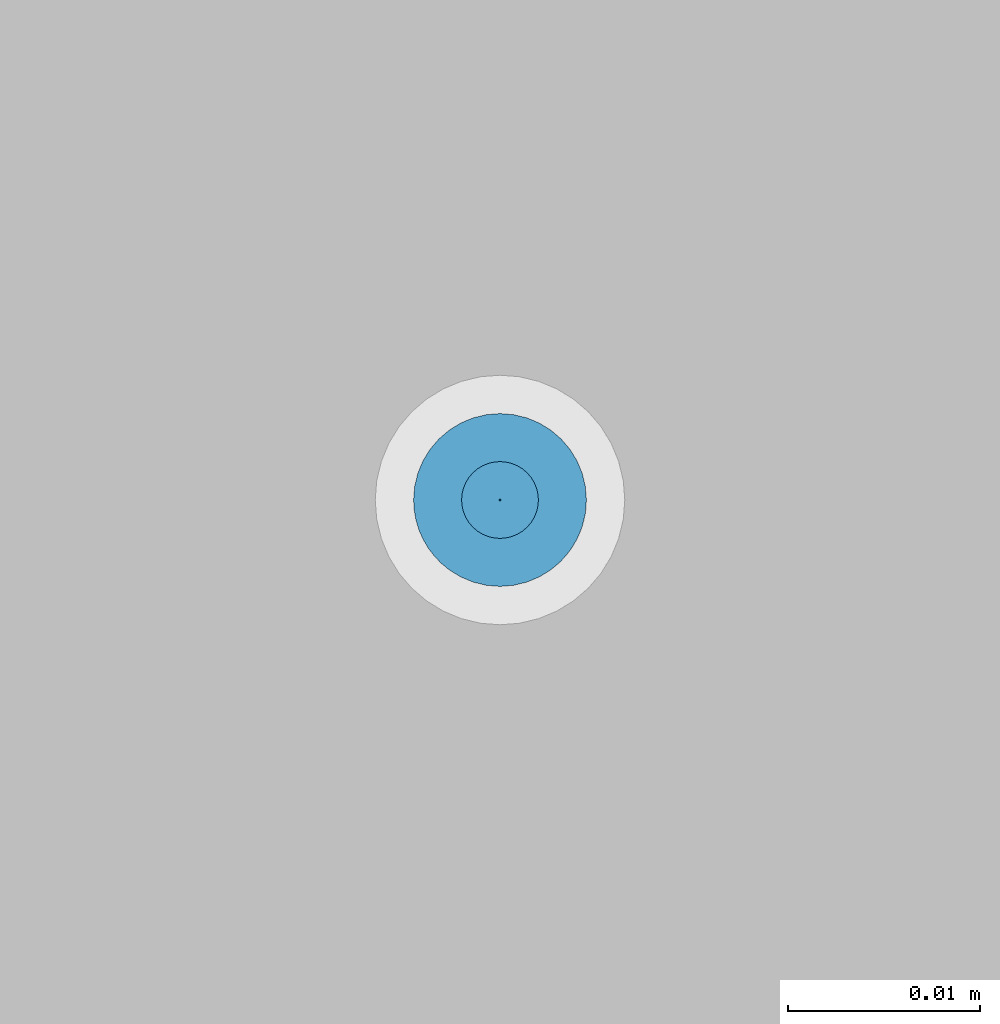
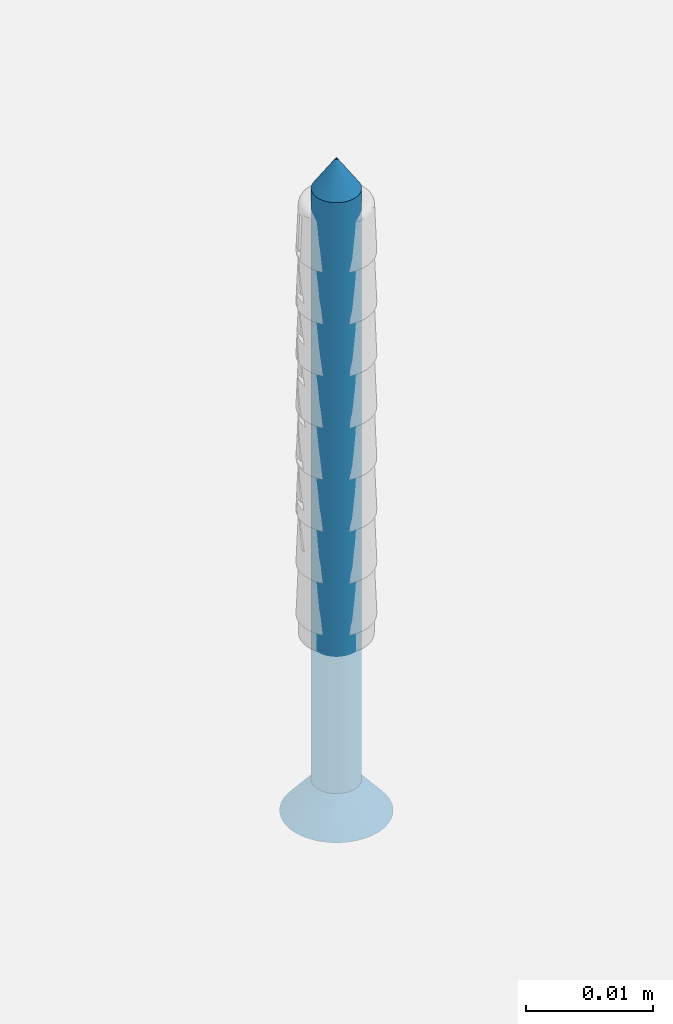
# One storey, part 15 of 92: 1 wall.
"""IFC2X3 building model written with IfcOpenShell, lengths in millimetres."""

from ifc_helpers import new_model, si_unit, frame, origin_with_axes, place, context, subcontext, project, spatial, faceted_brep, material, type_object, element, save


model = new_model("IFC2X3")

# Units and contexts
model_context = context("Model", 3, world=origin_with_axes())
body_context = subcontext(model_context, "Body", "Model", "MODEL_VIEW")
ifc_project = project(units=[si_unit("LENGTHUNIT", "METRE", prefix="MILLI"), si_unit("AREAUNIT", "SQUARE_METRE"), si_unit("VOLUMEUNIT", "CUBIC_METRE")], contexts=[model_context])

# Site, building, storey
site_placement = place(None, origin_with_axes())
site = spatial("IfcSite", under=ifc_project, at=site_placement, Name="Default Site", CompositionType="ELEMENT")
building_placement = place(site_placement, origin_with_axes())
building = spatial("IfcBuilding", under=site, at=building_placement, Name="Default Building", CompositionType="ELEMENT")
storey_placement = place(building_placement, origin_with_axes())
storey = spatial("IfcBuildingStorey", under=building, at=storey_placement, Name="Default Building Storey", CompositionType="ELEMENT", Elevation=0.0)

# Wall
ifc_material = material(Name="Default")
wall_type = type_object("IfcWallType", Name="Kołek rozporowy min. fi 6", PredefinedType="NOTDEFINED")
wall_placement = place(storey_placement, frame((3530.2813105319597, 1655.5457902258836, 2570.0054142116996), z_axis=(5.273559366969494e-16, -2.122374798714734e-31, -1.0), x_axis=(4.0245584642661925e-16, 1.0, 0.0)))
element("IfcWall", 1, at=wall_placement, inside=storey, type_object=wall_type, material=ifc_material, Name="Kołek rozporowy min. fi 6", context=body_context, shape_type="Brep", body=[
    faceted_brep([(-1438.2587671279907, -3452.579259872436, -0.46425670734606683), (-1435.7895851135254, -3452.970266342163, -3.464256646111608), (-1435.8141422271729, -3453.2833099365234, -3.464256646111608), (-1438.3141994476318, -3453.2833099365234, -0.46425670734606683), (-1438.093900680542, -3451.892614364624, -0.46425670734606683), (-1435.7162714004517, -3452.6650905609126, -3.464256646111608), (-1437.8236532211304, -3451.240301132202, -0.46425670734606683), (-1435.5961084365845, -3452.3751735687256, -3.464256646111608), (-1437.4547004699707, -3450.6382942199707, -0.46425670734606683), (-1435.4321956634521, -3452.107667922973, -3.464256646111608), (-1436.9961023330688, -3450.101137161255, -0.46425670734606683), (-1435.22834777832, -3451.8690109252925, -3.464256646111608), (-1436.4591836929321, -3449.642658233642, -0.46425670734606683), (-1434.9896907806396, -3451.665163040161, -3.464256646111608), (-1435.8570575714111, -3449.2735862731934, -0.46425670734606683), (-1434.7221851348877, -3451.501131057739, -3.464256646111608), (-1435.2047443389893, -3449.0034580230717, -0.46425670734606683), (-1434.4321489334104, -3451.381206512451, -3.464256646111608), (-1434.5180988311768, -3448.838710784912, -0.46425670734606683), (-1434.1269731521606, -3451.307773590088, -3.464256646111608), (-1433.8141679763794, -3448.7831592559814, -0.46425670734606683), (-1433.8141679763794, -3451.28321647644, -3.464256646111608), (-1433.110237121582, -3448.838710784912, -0.46425670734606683), (-1433.5012435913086, -3451.307773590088, -3.464256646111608), (-1432.4235916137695, -3449.0034580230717, -0.46425670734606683), (-1433.1960678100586, -3451.381206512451, -3.464256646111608), (-1431.771159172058, -3449.2735862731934, -0.46425670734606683), (-1432.9061508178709, -3451.501131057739, -3.464256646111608), (-1431.1691522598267, -3449.642658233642, -0.46425670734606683), (-1432.6385259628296, -3451.665163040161, -3.464256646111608), (-1430.6321144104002, -3450.101137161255, -0.46425670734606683), (-1432.3999881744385, -3451.8690109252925, -3.464256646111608), (-1430.1735162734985, -3450.6382942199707, -0.46425670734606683), (-1432.1961402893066, -3452.107667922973, -3.464256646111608), (-1429.8045635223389, -3451.240301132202, -0.46425670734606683), (-1432.0321083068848, -3452.3751735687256, -3.464256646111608), (-1429.5344352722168, -3451.892614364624, -0.46425670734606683), (-1431.9120645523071, -3452.6650905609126, -3.464256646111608), (-1431.814193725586, -3453.2833099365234, -3.464256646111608), (-1429.314136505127, -3453.2833099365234, -0.46425670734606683), (-1429.369568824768, -3453.9871215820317, -0.46425670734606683), (-1431.8387508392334, -3453.5961151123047, -3.464256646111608), (-1431.8387508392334, -3452.970266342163, -3.464256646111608), (-1429.369568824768, -3452.579259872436, -0.46425670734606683), (-1429.5344352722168, -3454.6737670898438, -0.46425670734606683), (-1431.9120645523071, -3453.9012908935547, -3.464256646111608), (-1429.8045635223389, -3455.3260803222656, -0.46425670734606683), (-1432.0321083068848, -3454.191207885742, -3.464256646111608), (-1430.1735162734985, -3455.9283256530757, -0.46425670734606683), (-1432.1961402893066, -3454.458713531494, -3.464256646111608), (-1430.6321144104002, -3456.465244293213, -0.46425670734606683), (-1432.3999881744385, -3454.6973705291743, -3.464256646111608), (-1431.1691522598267, -3456.923723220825, -0.46425670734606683), (-1432.6385259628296, -3454.9012184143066, -3.464256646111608), (-1431.771159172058, -3457.2927951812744, -0.46425670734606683), (-1432.9061508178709, -3455.065250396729, -3.464256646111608), (-1432.4235916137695, -3457.562923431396, -0.46425670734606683), (-1433.1960678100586, -3455.1854133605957, -3.464256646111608), (-1433.110237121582, -3457.7279090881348, -0.46425670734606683), (-1433.5012435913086, -3455.25860786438, -3.464256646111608), (-1433.8141679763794, -3457.7832221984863, -0.46425670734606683), (-1433.8141679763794, -3455.283164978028, -3.464256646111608), (-1434.1269731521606, -3455.25860786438, -3.464256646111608), (-1434.3430995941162, -3457.7519893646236, -0.46425670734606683), (-1434.4321489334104, -3455.1854133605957, -3.464256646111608), (-1434.8646402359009, -3457.6590061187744, -0.46425670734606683), (-1435.3716373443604, -3457.504987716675, -0.46425670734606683), (-1434.7221851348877, -3455.065250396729, -3.464256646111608), (-1435.8570575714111, -3457.2927951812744, -0.46425670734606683), (-1436.3142251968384, -3457.024812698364, -0.46425670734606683), (-1435.22834777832, -3454.6973705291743, -3.464256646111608), (-1434.9896907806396, -3454.9012184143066, -3.464256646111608), (-1436.7367029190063, -3456.705093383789, -0.46425670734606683), (-1437.118649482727, -3456.337928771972, -0.46425670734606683), (-1435.4321956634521, -3454.458713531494, -3.464256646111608), (-1437.4547004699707, -3455.9283256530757, -0.46425670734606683), (-1437.8236532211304, -3455.3260803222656, -0.46425670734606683), (-1435.5961084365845, -3454.191207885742, -3.464256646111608), (-1438.093900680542, -3454.6737670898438, -0.46425670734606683), (-1435.7162714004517, -3453.9012908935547, -3.464256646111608), (-1438.2587671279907, -3453.9871215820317, -0.46425670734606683), (-1435.7895851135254, -3453.5961151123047, -3.464256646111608), (-1433.8141679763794, -3455.7831287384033, 0.20073754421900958), (-1434.2052936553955, -3455.752372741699, 0.20073754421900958), (-1434.5866441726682, -3455.6608200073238, 0.20073754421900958), (-1434.9491596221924, -3455.510854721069, 0.20073754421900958), (-1435.2836608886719, -3455.305814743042, 0.20073754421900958), (-1435.581922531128, -3455.0509452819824, 0.20073754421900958), (-1435.836672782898, -3454.7526836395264, 0.20073754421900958), (-1436.0417127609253, -3454.418182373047, 0.20073754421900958), (-1436.1917972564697, -3454.0557861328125, 0.20073754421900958), (-1436.2833499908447, -3453.6743164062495, 0.20073754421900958), (-1436.3141059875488, -3453.2833099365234, 0.20073754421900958), (-1436.2833499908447, -3452.8920650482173, 0.20073754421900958), (-1436.1917972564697, -3452.5105953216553, 0.20073754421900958), (-1436.0417127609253, -3452.148199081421, 0.20073754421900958), (-1435.836672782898, -3451.8136978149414, 0.20073754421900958), (-1435.581922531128, -3451.5154361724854, 0.20073754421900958), (-1435.2836608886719, -3451.260566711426, 0.20073754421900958), (-1434.9491596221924, -3451.0557651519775, 0.20073754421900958), (-1434.5866441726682, -3450.905561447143, 0.20073754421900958), (-1433.8141679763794, -3450.7832527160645, 0.20073754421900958), (-1433.4230422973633, -3450.8140087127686, 0.20073754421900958), (-1434.2052936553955, -3450.8140087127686, 0.20073754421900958), (-1433.0415725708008, -3450.905561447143, 0.20073754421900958), (-1432.6791763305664, -3451.0557651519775, 0.20073754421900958), (-1432.344675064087, -3451.260566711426, 0.20073754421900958), (-1432.0464134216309, -3451.5154361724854, 0.20073754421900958), (-1431.7916631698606, -3451.8136978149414, 0.20073754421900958), (-1431.5866231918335, -3452.148199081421, 0.20073754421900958), (-1431.436538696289, -3452.5105953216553, 0.20073754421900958), (-1431.344985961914, -3452.8920650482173, 0.20073754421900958), (-1431.3141107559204, -3453.2833099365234, 0.20073754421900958), (-1431.344985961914, -3453.6743164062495, 0.20073754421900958), (-1431.436538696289, -3454.0557861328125, 0.20073754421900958), (-1431.5866231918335, -3454.418182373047, 0.20073754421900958), (-1431.7916631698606, -3454.7526836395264, 0.20073754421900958), (-1432.0464134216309, -3455.0509452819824, 0.20073754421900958), (-1432.344675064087, -3455.305814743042, 0.20073754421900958), (-1432.6791763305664, -3455.510854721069, 0.20073754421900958), (-1433.0415725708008, -3455.6608200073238, 0.20073754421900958), (-1433.4230422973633, -3455.752372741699, 0.20073754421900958), (-1435.8141422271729, -3453.2833099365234, -60.464255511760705), (-1435.7895851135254, -3452.970266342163, -60.464255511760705), (-1433.8141679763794, -3453.2833099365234, -63.46425414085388), (-1435.7162714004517, -3452.6650905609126, -60.464255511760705), (-1435.5961084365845, -3452.3751735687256, -60.464255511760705), (-1435.4321956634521, -3452.107667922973, -60.464255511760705), (-1435.22834777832, -3451.8690109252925, -60.464255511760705), (-1434.9896907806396, -3451.665163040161, -60.464255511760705), (-1434.7221851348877, -3451.501131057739, -60.464255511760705), (-1434.4321489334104, -3451.381206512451, -60.464255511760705), (-1434.1269731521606, -3451.307773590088, -60.464255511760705), (-1433.8141679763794, -3451.28321647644, -60.464255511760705), (-1433.5012435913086, -3451.307773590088, -60.464255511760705), (-1433.1960678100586, -3451.381206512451, -60.464255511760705), (-1432.9061508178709, -3451.501131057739, -60.464255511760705), (-1432.6385259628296, -3451.665163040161, -60.464255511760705), (-1432.3999881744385, -3451.8690109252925, -60.464255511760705), (-1432.1961402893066, -3452.107667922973, -60.464255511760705), (-1432.0321083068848, -3452.3751735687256, -60.464255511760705), (-1431.9120645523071, -3452.6650905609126, -60.464255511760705), (-1431.8387508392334, -3452.970266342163, -60.464255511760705), (-1431.814193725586, -3453.2833099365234, -60.464255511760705), (-1431.8387508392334, -3453.5961151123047, -60.464255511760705), (-1431.9120645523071, -3453.9012908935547, -60.464255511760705), (-1432.0321083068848, -3454.191207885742, -60.464255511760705), (-1432.1961402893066, -3454.458713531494, -60.464255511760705), (-1432.3999881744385, -3454.6973705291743, -60.464255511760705), (-1432.6385259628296, -3454.9012184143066, -60.464255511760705), (-1432.9061508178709, -3455.065250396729, -60.464255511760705), (-1433.1960678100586, -3455.1854133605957, -60.464255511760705), (-1433.5012435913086, -3455.25860786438, -60.464255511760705), (-1433.8141679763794, -3455.283164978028, -60.464255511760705), (-1434.1269731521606, -3455.25860786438, -60.464255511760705), (-1434.4321489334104, -3455.1854133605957, -60.464255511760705), (-1434.7221851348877, -3455.065250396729, -60.464255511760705), (-1434.9896907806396, -3454.9012184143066, -60.464255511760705), (-1435.22834777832, -3454.6973705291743, -60.464255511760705), (-1435.4321956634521, -3454.458713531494, -60.464255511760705), (-1435.5961084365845, -3454.191207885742, -60.464255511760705), (-1435.7162714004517, -3453.9012908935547, -60.464255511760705), (-1435.7895851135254, -3453.5961151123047, -60.464255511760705), (-1436.1917972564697, -3454.0557861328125, 0.049999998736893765), (-1436.0417127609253, -3454.418182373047, 0.049999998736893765), (-1435.836672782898, -3454.7526836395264, 0.049999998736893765), (-1435.581922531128, -3455.0509452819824, 0.049999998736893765), (-1435.2836608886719, -3455.305814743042, 0.049999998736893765), (-1434.9491596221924, -3455.510854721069, 0.049999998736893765), (-1434.5866441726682, -3455.6608200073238, 0.049999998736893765), (-1434.2052936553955, -3455.752372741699, 0.049999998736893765), (-1433.8141679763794, -3455.7831287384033, 0.049999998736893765), (-1433.4230422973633, -3455.752372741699, 0.049999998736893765), (-1433.0415725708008, -3455.6608200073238, 0.049999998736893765), (-1432.6791763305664, -3455.510854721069, 0.049999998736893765), (-1432.344675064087, -3455.305814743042, 0.049999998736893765), (-1432.0464134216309, -3455.0509452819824, 0.049999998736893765), (-1431.7916631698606, -3454.7526836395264, 0.049999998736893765), (-1431.5866231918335, -3454.418182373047, 0.049999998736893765), (-1431.436538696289, -3454.0557861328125, 0.049999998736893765), (-1431.344985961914, -3453.6743164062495, 0.049999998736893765), (-1431.3141107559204, -3453.2833099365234, 0.049999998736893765), (-1431.344985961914, -3452.8920650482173, 0.049999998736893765), (-1431.436538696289, -3452.5105953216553, 0.049999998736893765), (-1431.5866231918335, -3452.148199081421, 0.049999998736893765), (-1431.7916631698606, -3451.8136978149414, 0.049999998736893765), (-1432.0464134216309, -3451.5154361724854, 0.049999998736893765), (-1432.344675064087, -3451.260566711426, 0.049999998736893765), (-1432.6791763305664, -3451.0557651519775, 0.049999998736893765), (-1433.0415725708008, -3450.905561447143, 0.049999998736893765), (-1433.4230422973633, -3450.8140087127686, 0.049999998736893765), (-1433.8141679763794, -3450.7832527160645, 0.049999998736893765), (-1434.2052936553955, -3450.8140087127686, 0.049999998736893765), (-1434.5866441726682, -3450.905561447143, 0.049999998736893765), (-1434.9491596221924, -3451.0557651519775, 0.049999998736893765), (-1435.2836608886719, -3451.260566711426, 0.049999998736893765), (-1435.581922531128, -3451.5154361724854, 0.049999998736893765), (-1435.836672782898, -3451.8136978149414, 0.049999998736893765), (-1436.0417127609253, -3452.148199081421, 0.049999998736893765), (-1436.1917972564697, -3452.5105953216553, 0.049999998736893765), (-1436.2833499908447, -3452.8920650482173, 0.049999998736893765), (-1436.3141059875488, -3453.2833099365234, 0.049999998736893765), (-1436.2833499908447, -3453.6743164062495, 0.049999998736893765), (-1434.3141317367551, -3453.7832736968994, 0.049999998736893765), (-1435.8141422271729, -3453.7832736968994, 0.049999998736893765), (-1435.8141422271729, -3452.7831077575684, 0.049999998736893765), (-1434.3141317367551, -3452.7831077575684, 0.049999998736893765), (-1434.3141317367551, -3451.28321647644, 0.049999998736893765), (-1433.3142042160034, -3451.28321647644, 0.049999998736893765), (-1433.3142042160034, -3452.7831077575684, 0.049999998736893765), (-1431.814193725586, -3452.7831077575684, 0.049999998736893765), (-1431.814193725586, -3453.7832736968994, 0.049999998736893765), (-1433.3142042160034, -3453.7832736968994, 0.049999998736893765), (-1433.3142042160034, -3455.283164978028, 0.049999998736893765), (-1434.3141317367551, -3455.283164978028, 0.049999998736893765), (-1435.8141422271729, -3452.7831077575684, -1.799262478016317), (-1435.8141422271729, -3453.7832736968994, -1.799262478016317), (-1434.3141317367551, -3453.7832736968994, -1.799262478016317), (-1434.3141317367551, -3455.283164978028, -1.799262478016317), (-1433.3142042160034, -3455.283164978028, -1.799262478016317), (-1433.3142042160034, -3453.7832736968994, -1.799262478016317), (-1431.814193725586, -3453.7832736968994, -1.799262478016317), (-1431.814193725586, -3452.7831077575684, -1.799262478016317), (-1433.3142042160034, -3452.7831077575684, -1.799262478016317), (-1433.3142042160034, -3451.28321647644, -1.799262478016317), (-1434.3141317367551, -3451.28321647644, -1.799262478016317), (-1434.3141317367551, -3452.7831077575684, -1.799262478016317)], [[[0, 1, 2, 3]], [[1, 0, 4, 5]], [[5, 4, 6, 7]], [[8, 9, 7, 6]], [[9, 8, 10, 11]], [[12, 13, 11, 10]], [[13, 12, 14, 15]], [[15, 14, 16, 17]], [[18, 19, 17, 16]], [[19, 18, 20, 21]], [[22, 23, 21, 20]], [[23, 22, 24, 25]], [[25, 24, 26, 27]], [[28, 29, 27, 26]], [[29, 28, 30, 31]], [[32, 33, 31, 30]], [[33, 32, 34, 35]], [[35, 34, 36, 37]], [[38, 39, 40, 41]], [[42, 43, 39, 38]], [[43, 42, 37, 36]], [[41, 40, 44, 45]], [[45, 44, 46, 47]], [[48, 49, 47, 46]], [[49, 48, 50, 51]], [[52, 53, 51, 50]], [[53, 52, 54, 55]], [[55, 54, 56, 57]], [[58, 59, 57, 56]], [[59, 58, 60, 61]], [[62, 60, 63]], [[62, 61, 60]], [[63, 64, 62]], [[63, 65, 64]], [[64, 65, 66]], [[66, 67, 64]], [[66, 68, 67]], [[69, 70, 71]], [[69, 72, 70]], [[71, 68, 69]], [[71, 67, 68]], [[72, 73, 70]], [[74, 73, 75]], [[74, 70, 73]], [[74, 75, 76, 77]], [[77, 76, 78, 79]], [[80, 81, 79, 78]], [[81, 80, 3, 2]], [[63, 82, 83]], [[63, 60, 82]], [[83, 65, 63]], [[83, 84, 65]], [[84, 68, 66]], [[84, 85, 68]], [[66, 65, 84]], [[69, 85, 86]], [[69, 68, 85]], [[87, 73, 72]], [[72, 86, 87]], [[72, 69, 86]], [[75, 87, 88]], [[75, 73, 87]], [[75, 88, 89, 76]], [[76, 89, 90, 78]], [[91, 80, 78, 90]], [[80, 91, 92, 3]], [[93, 0, 3, 92]], [[0, 93, 94, 4]], [[4, 94, 95, 6]], [[96, 8, 6, 95]], [[8, 96, 97, 10]], [[98, 12, 10, 97]], [[12, 98, 99, 14]], [[14, 99, 100, 16]], [[20, 101, 102, 22]], [[18, 103, 101, 20]], [[103, 18, 16, 100]], [[22, 102, 104, 24]], [[24, 104, 105, 26]], [[106, 28, 26, 105]], [[28, 106, 107, 30]], [[108, 32, 30, 107]], [[32, 108, 109, 34]], [[34, 109, 110, 36]], [[111, 43, 36, 110]], [[43, 111, 112, 39]], [[113, 40, 39, 112]], [[40, 113, 114, 44]], [[44, 114, 115, 46]], [[116, 48, 46, 115]], [[48, 116, 117, 50]], [[118, 52, 50, 117]], [[52, 118, 119, 54]], [[54, 119, 120, 56]], [[121, 58, 56, 120]], [[58, 121, 82, 60]], [[122, 123, 124]], [[123, 125, 124]], [[125, 126, 124]], [[124, 126, 127]], [[127, 128, 124]], [[124, 128, 129]], [[129, 130, 124]], [[130, 131, 124]], [[124, 131, 132]], [[132, 133, 124]], [[124, 133, 134]], [[134, 135, 124]], [[135, 136, 124]], [[124, 136, 137]], [[137, 138, 124]], [[124, 138, 139]], [[139, 140, 124]], [[140, 141, 124]], [[124, 141, 142]], [[142, 143, 124]], [[124, 143, 144]], [[144, 145, 124]], [[145, 146, 124]], [[124, 146, 147]], [[147, 148, 124]], [[124, 148, 149]], [[149, 150, 124]], [[150, 151, 124]], [[124, 151, 152]], [[152, 153, 124]], [[124, 153, 154]], [[154, 155, 124]], [[155, 156, 124]], [[124, 156, 157]], [[157, 158, 124]], [[124, 158, 159]], [[159, 160, 124]], [[160, 161, 124]], [[124, 161, 162]], [[124, 162, 122]], [[1, 123, 122, 2]], [[123, 1, 5, 125]], [[125, 5, 7, 126]], [[9, 127, 126, 7]], [[127, 9, 11, 128]], [[13, 129, 128, 11]], [[129, 13, 15, 130]], [[130, 15, 17, 131]], [[19, 132, 131, 17]], [[132, 19, 21, 133]], [[23, 134, 133, 21]], [[134, 23, 25, 135]], [[135, 25, 27, 136]], [[29, 137, 136, 27]], [[137, 29, 31, 138]], [[33, 139, 138, 31]], [[139, 33, 35, 140]], [[140, 35, 37, 141]], [[143, 38, 41, 144]], [[142, 42, 38, 143]], [[42, 142, 141, 37]], [[144, 41, 45, 145]], [[145, 45, 47, 146]], [[49, 147, 146, 47]], [[147, 49, 51, 148]], [[53, 149, 148, 51]], [[149, 53, 55, 150]], [[150, 55, 57, 151]], [[59, 152, 151, 57]], [[152, 59, 61, 153]], [[62, 154, 153, 61]], [[154, 62, 64, 155]], [[155, 64, 67, 156]], [[71, 157, 156, 67]], [[157, 71, 70, 158]], [[74, 159, 158, 70]], [[159, 74, 77, 160]], [[160, 77, 79, 161]], [[81, 162, 161, 79]], [[162, 81, 2, 122]], [[163, 164, 165, 166, 167, 168, 169, 170, 171, 172, 173, 174, 175, 176, 177, 178, 179, 180, 181, 182, 183, 184, 185, 186, 187, 188, 189, 190, 191, 192, 193, 194, 195, 196, 197, 198, 199, 200, 201, 202], [203, 204, 205, 206, 207, 208, 209, 210, 211, 212, 213, 214]], [[113, 112, 181, 180]], [[180, 179, 114, 113]], [[179, 178, 115, 114]], [[116, 115, 178, 177]], [[177, 176, 117, 116]], [[118, 117, 176, 175]], [[175, 174, 119, 118]], [[174, 173, 120, 119]], [[121, 120, 173, 172]], [[172, 171, 82, 121]], [[83, 82, 171, 170]], [[170, 169, 84, 83]], [[169, 168, 85, 84]], [[86, 85, 168, 167]], [[167, 166, 87, 86]], [[88, 87, 166, 165]], [[165, 164, 89, 88]], [[164, 163, 90, 89]], [[201, 200, 93, 92]], [[202, 201, 92, 91]], [[91, 90, 163, 202]], [[200, 199, 94, 93]], [[199, 198, 95, 94]], [[96, 95, 198, 197]], [[197, 196, 97, 96]], [[98, 97, 196, 195]], [[195, 194, 99, 98]], [[194, 193, 100, 99]], [[103, 100, 193, 192]], [[192, 191, 101, 103]], [[102, 101, 191, 190]], [[190, 189, 104, 102]], [[189, 188, 105, 104]], [[106, 105, 188, 187]], [[187, 186, 107, 106]], [[108, 107, 186, 185]], [[185, 184, 109, 108]], [[184, 183, 110, 109]], [[111, 110, 183, 182]], [[182, 181, 112, 111]], [[215, 216, 217, 218, 219, 220, 221, 222, 223, 224, 225, 226]], [[224, 208, 207, 225]], [[225, 207, 206, 226]], [[226, 206, 205, 215]], [[215, 205, 204, 216]], [[216, 204, 203, 217]], [[217, 203, 214, 218]], [[218, 214, 213, 219]], [[219, 213, 212, 220]], [[220, 212, 211, 221]], [[221, 211, 210, 222]], [[222, 210, 209, 223]], [[223, 209, 208, 224]]]),
])

save(model, "model.ifc")
